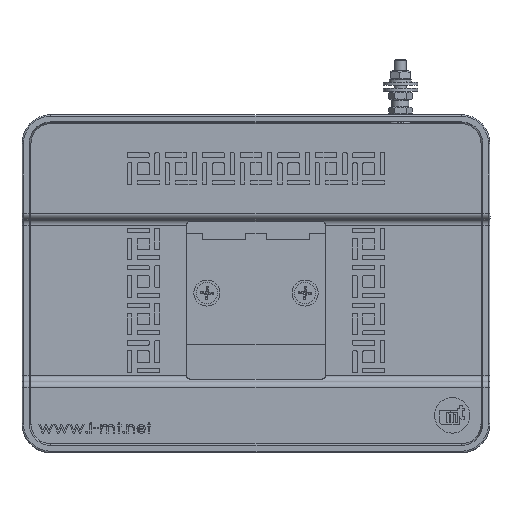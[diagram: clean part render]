
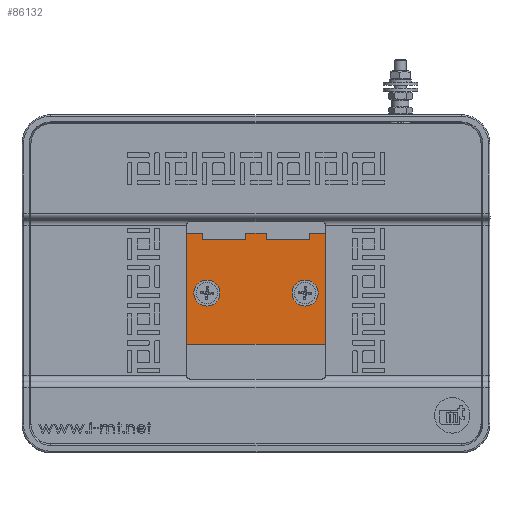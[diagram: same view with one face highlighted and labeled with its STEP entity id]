
A CAD part, top view. The second image highlights one B-rep face of the part: STEP entity #86132.
In plain terms, the highlighted planar face has unit normal (0, 0, 1).
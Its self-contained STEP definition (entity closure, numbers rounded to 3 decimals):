
#2439=LINE('',#120984,#11292);
#2440=LINE('',#120986,#11293);
#2441=LINE('',#120988,#11294);
#2442=LINE('',#120990,#11295);
#2443=LINE('',#120992,#11296);
#2444=LINE('',#120994,#11297);
#2445=LINE('',#120996,#11298);
#2446=LINE('',#120998,#11299);
#2447=LINE('',#121000,#11300);
#2448=LINE('',#121002,#11301);
#2449=LINE('',#121004,#11302);
#2450=LINE('',#121005,#11303);
#11292=VECTOR('',#97805,10.);
#11293=VECTOR('',#97806,10.);
#11294=VECTOR('',#97807,10.);
#11295=VECTOR('',#97808,10.);
#11296=VECTOR('',#97809,10.);
#11297=VECTOR('',#97810,10.);
#11298=VECTOR('',#97811,10.);
#11299=VECTOR('',#97812,10.);
#11300=VECTOR('',#97813,10.);
#11301=VECTOR('',#97814,10.);
#11302=VECTOR('',#97815,10.);
#11303=VECTOR('',#97816,10.);
#20147=FACE_BOUND('',#25217,.T.);
#20148=FACE_BOUND('',#25218,.T.);
#20751=FACE_OUTER_BOUND('',#25216,.T.);
#25216=EDGE_LOOP('',(#53948,#53949,#53950,#53951,#53952,#53953,#53954,#53955,
#53956,#53957,#53958,#53959));
#25217=EDGE_LOOP('',(#53960));
#25218=EDGE_LOOP('',(#53961));
#30283=CIRCLE('',#90633,4.5);
#30284=CIRCLE('',#90634,4.5);
#33165=VERTEX_POINT('',#120982);
#33166=VERTEX_POINT('',#120983);
#33167=VERTEX_POINT('',#120985);
#33168=VERTEX_POINT('',#120987);
#33169=VERTEX_POINT('',#120989);
#33170=VERTEX_POINT('',#120991);
#33171=VERTEX_POINT('',#120993);
#33172=VERTEX_POINT('',#120995);
#33173=VERTEX_POINT('',#120997);
#33174=VERTEX_POINT('',#120999);
#33175=VERTEX_POINT('',#121001);
#33176=VERTEX_POINT('',#121003);
#33177=VERTEX_POINT('',#121006);
#33178=VERTEX_POINT('',#121008);
#41417=EDGE_CURVE('',#33165,#33166,#2439,.T.);
#41418=EDGE_CURVE('',#33165,#33167,#2440,.F.);
#41419=EDGE_CURVE('',#33168,#33167,#2441,.T.);
#41420=EDGE_CURVE('',#33169,#33168,#2442,.T.);
#41421=EDGE_CURVE('',#33170,#33169,#2443,.T.);
#41422=EDGE_CURVE('',#33171,#33170,#2444,.T.);
#41423=EDGE_CURVE('',#33172,#33171,#2445,.T.);
#41424=EDGE_CURVE('',#33172,#33173,#2446,.F.);
#41425=EDGE_CURVE('',#33174,#33173,#2447,.T.);
#41426=EDGE_CURVE('',#33174,#33175,#2448,.F.);
#41427=EDGE_CURVE('',#33176,#33175,#2449,.T.);
#41428=EDGE_CURVE('',#33176,#33166,#2450,.F.);
#41429=EDGE_CURVE('',#33177,#33177,#30283,.T.);
#41430=EDGE_CURVE('',#33178,#33178,#30284,.T.);
#53948=ORIENTED_EDGE('',*,*,#41417,.F.);
#53949=ORIENTED_EDGE('',*,*,#41418,.T.);
#53950=ORIENTED_EDGE('',*,*,#41419,.F.);
#53951=ORIENTED_EDGE('',*,*,#41420,.F.);
#53952=ORIENTED_EDGE('',*,*,#41421,.F.);
#53953=ORIENTED_EDGE('',*,*,#41422,.F.);
#53954=ORIENTED_EDGE('',*,*,#41423,.F.);
#53955=ORIENTED_EDGE('',*,*,#41424,.T.);
#53956=ORIENTED_EDGE('',*,*,#41425,.F.);
#53957=ORIENTED_EDGE('',*,*,#41426,.T.);
#53958=ORIENTED_EDGE('',*,*,#41427,.F.);
#53959=ORIENTED_EDGE('',*,*,#41428,.T.);
#53960=ORIENTED_EDGE('',*,*,#41429,.T.);
#53961=ORIENTED_EDGE('',*,*,#41430,.T.);
#79008=PLANE('',#90632);
#86132=ADVANCED_FACE('',(#20751,#20147,#20148),#79008,.F.);
#90632=AXIS2_PLACEMENT_3D('',#120981,#97803,#97804);
#90633=AXIS2_PLACEMENT_3D('',#121007,#97817,#97818);
#90634=AXIS2_PLACEMENT_3D('',#121009,#97819,#97820);
#97803=DIRECTION('center_axis',(0.,0.,
-1.));
#97804=DIRECTION('ref_axis',(-1.,0.,0.));
#97805=DIRECTION('',(1.,0.,0.));
#97806=DIRECTION('',(0.,1.,0.));
#97807=DIRECTION('',(1.,0.,0.));
#97808=DIRECTION('',(0.,1.,0.));
#97809=DIRECTION('',(-1.,0.,0.));
#97810=DIRECTION('',(0.,-1.,0.));
#97811=DIRECTION('',(1.,0.,0.));
#97812=DIRECTION('',(0.,-1.,0.));
#97813=DIRECTION('',(1.,0.,0.));
#97814=DIRECTION('',(0.,1.,0.));
#97815=DIRECTION('',(1.,0.,0.));
#97816=DIRECTION('',(0.,-1.,0.));
#97817=DIRECTION('center_axis',(0.,0.,
-1.));
#97818=DIRECTION('ref_axis',(-1.,0.,0.));
#97819=DIRECTION('center_axis',(0.,0.,
-1.));
#97820=DIRECTION('ref_axis',(-1.,0.,0.));
#120981=CARTESIAN_POINT('Origin',(0.,-1.75,
26.9));
#120982=CARTESIAN_POINT('',(-19.5,17.501,26.9));
#120983=CARTESIAN_POINT('',(-2.5,17.501,26.9));
#120984=CARTESIAN_POINT('',(-5.5,17.501,26.9));
#120985=CARTESIAN_POINT('',(-19.5,17.5,26.9));
#120986=CARTESIAN_POINT('',(-19.5,7.875,26.9));
#120987=CARTESIAN_POINT('',(-24.,17.5,26.9));
#120988=CARTESIAN_POINT('',(-24.,17.5,26.9));
#120989=CARTESIAN_POINT('',(-24.,-21.,26.9));
#120990=CARTESIAN_POINT('',(-24.,14.875,26.9));
#120991=CARTESIAN_POINT('',(24.,-21.,26.9));
#120992=CARTESIAN_POINT('',(24.,-21.,26.9));
#120993=CARTESIAN_POINT('',(24.,17.5,26.9));
#120994=CARTESIAN_POINT('',(24.,-19.125,26.9));
#120995=CARTESIAN_POINT('',(19.5,17.5,26.9));
#120996=CARTESIAN_POINT('',(-24.,17.5,26.9));
#120997=CARTESIAN_POINT('',(19.5,17.501,26.9));
#120998=CARTESIAN_POINT('',(19.5,5.875,26.9));
#120999=CARTESIAN_POINT('',(2.5,17.501,26.9));
#121000=CARTESIAN_POINT('',(5.5,17.501,26.9));
#121001=CARTESIAN_POINT('',(2.5,17.5,26.9));
#121002=CARTESIAN_POINT('',(2.5,7.875,26.9));
#121003=CARTESIAN_POINT('',(-2.5,17.5,26.9));
#121004=CARTESIAN_POINT('',(-24.,17.5,26.9));
#121005=CARTESIAN_POINT('',(-2.5,5.875,26.9));
#121006=CARTESIAN_POINT('',(-12.5,-3.25,26.9));
#121007=CARTESIAN_POINT('Origin',(-17.,-3.25,26.9));
#121008=CARTESIAN_POINT('',(21.5,-3.25,26.9));
#121009=CARTESIAN_POINT('Origin',(17.,-3.25,26.9));
